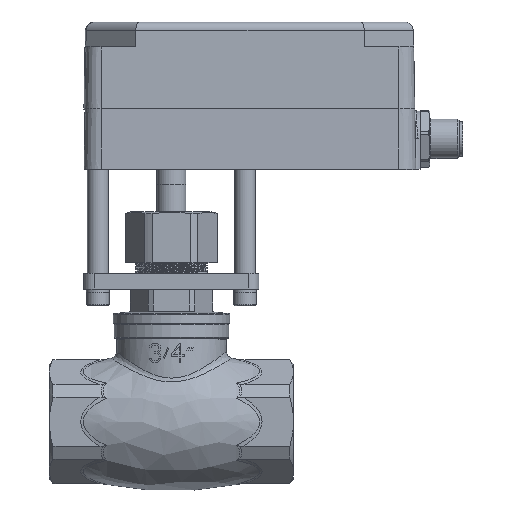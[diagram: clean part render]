
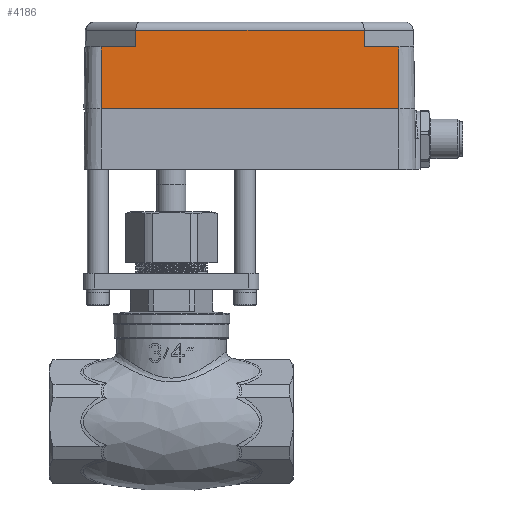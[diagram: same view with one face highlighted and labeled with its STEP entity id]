
A CAD part, top view. The second image highlights one B-rep face of the part: STEP entity #4186.
In plain terms, the highlighted planar face has unit normal (0.005, 0.018, 1) as drawn and (0, 0.017, 1) by its records, which use the part's own axes.
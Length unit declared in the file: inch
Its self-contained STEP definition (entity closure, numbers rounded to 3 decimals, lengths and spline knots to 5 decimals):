
#2121 = CARTESIAN_POINT ( 'NONE',  ( -1.78626, 0., 1.39199 ) ) ;
#2723 = CARTESIAN_POINT ( 'NONE',  ( -1.78626, 0.94175, 1.37555 ) ) ;
#3959 = CARTESIAN_POINT ( 'NONE',  ( 1.78626, 0.74, 1.37907 ) ) ;
#4186 = ADVANCED_FACE ( 'NONE', ( #35026 ), #34861, .T. ) ;
#5116 = ORIENTED_EDGE ( 'NONE', *, *, #5994, .T. ) ;
#5235 = VECTOR ( 'NONE', #9606, 39.37008 ) ;
#5676 = VERTEX_POINT ( 'NONE', #3959 ) ;
#5994 = EDGE_CURVE ( 'NONE', #12981, #29043, #30147, .T. ) ;
#7210 = ORIENTED_EDGE ( 'NONE', *, *, #33599, .F. ) ;
#7552 = VECTOR ( 'NONE', #29981, 39.37008 ) ;
#8459 = VERTEX_POINT ( 'NONE', #26009 ) ;
#8506 = LINE ( 'NONE', #19367, #24276 ) ;
#9035 = LINE ( 'NONE', #19886, #23031 ) ;
#9213 = VECTOR ( 'NONE', #32315, 39.37008 ) ;
#9606 = DIRECTION ( 'NONE',  ( -1., 0., 0. ) ) ;
#10748 = LINE ( 'NONE', #21543, #9213 ) ;
#10757 = VERTEX_POINT ( 'NONE', #2121 ) ;
#12425 = CARTESIAN_POINT ( 'NONE',  ( -1.78626, 0., 1.39199 ) ) ;
#12981 = VERTEX_POINT ( 'NONE', #33308 ) ;
#13736 = VERTEX_POINT ( 'NONE', #27048 ) ;
#13797 = DIRECTION ( 'NONE',  ( -1., 0., 0. ) ) ;
#15023 = LINE ( 'NONE', #23125, #34733 ) ;
#17002 = VERTEX_POINT ( 'NONE', #34607 ) ;
#17352 = ORIENTED_EDGE ( 'NONE', *, *, #28218, .T. ) ;
#18468 = EDGE_CURVE ( 'NONE', #13736, #25526, #10748, .T. ) ;
#19038 = EDGE_CURVE ( 'NONE', #29043, #13736, #27240, .T. ) ;
#19367 = CARTESIAN_POINT ( 'NONE',  ( 1.78626, 1.04, 1.37383 ) ) ;
#19598 = EDGE_CURVE ( 'NONE', #25526, #17002, #23095, .T. ) ;
#19886 = CARTESIAN_POINT ( 'NONE',  ( -1.78626, 0.74, 1.37907 ) ) ;
#20032 = EDGE_CURVE ( 'NONE', #10757, #8459, #28538, .T. ) ;
#20767 = CARTESIAN_POINT ( 'NONE',  ( 1.37104, 0.94175, 1.37555 ) ) ;
#20810 = ORIENTED_EDGE ( 'NONE', *, *, #19038, .T. ) ;
#20902 = CARTESIAN_POINT ( 'NONE',  ( -1.3725, 0.74, 1.37907 ) ) ;
#21543 = CARTESIAN_POINT ( 'NONE',  ( -1.37036, 1.03699, 1.37389 ) ) ;
#22408 = AXIS2_PLACEMENT_3D ( 'NONE', #34819, #34732, #34724 ) ;
#23031 = VECTOR ( 'NONE', #30674, 39.37008 ) ;
#23095 = LINE ( 'NONE', #33821, #5235 ) ;
#23119 = ORIENTED_EDGE ( 'NONE', *, *, #20032, .T. ) ;
#23125 = CARTESIAN_POINT ( 'NONE',  ( -1.78626, 0., 1.39199 ) ) ;
#23225 = DIRECTION ( 'NONE',  ( 1., 0., 0. ) ) ;
#23631 = ORIENTED_EDGE ( 'NONE', *, *, #18468, .T. ) ;
#24276 = VECTOR ( 'NONE', #30145, 39.37008 ) ;
#25526 = VERTEX_POINT ( 'NONE', #20902 ) ;
#26009 = CARTESIAN_POINT ( 'NONE',  ( 1.78626, 0., 1.39199 ) ) ;
#26662 = EDGE_LOOP ( 'NONE', ( #5116, #20810, #23631, #28953, #27993, #23119, #7210, #17352 ) ) ;
#27048 = CARTESIAN_POINT ( 'NONE',  ( -1.37104, 0.94175, 1.37555 ) ) ;
#27240 = LINE ( 'NONE', #2723, #32961 ) ;
#27993 = ORIENTED_EDGE ( 'NONE', *, *, #29658, .F. ) ;
#28218 = EDGE_CURVE ( 'NONE', #5676, #12981, #9035, .T. ) ;
#28538 = LINE ( 'NONE', #12425, #29139 ) ;
#28953 = ORIENTED_EDGE ( 'NONE', *, *, #19598, .T. ) ;
#29043 = VERTEX_POINT ( 'NONE', #20767 ) ;
#29139 = VECTOR ( 'NONE', #23225, 39.37008 ) ;
#29658 = EDGE_CURVE ( 'NONE', #10757, #17002, #15023, .T. ) ;
#29981 = DIRECTION ( 'NONE',  ( -0.007, 1., -0.017 ) ) ;
#30028 = CARTESIAN_POINT ( 'NONE',  ( 1.37017, 1.06281, 1.37344 ) ) ;
#30145 = DIRECTION ( 'NONE',  ( 0., -1., 0.017 ) ) ;
#30147 = LINE ( 'NONE', #30028, #7552 ) ;
#30674 = DIRECTION ( 'NONE',  ( -1., 0., 0. ) ) ;
#32315 = DIRECTION ( 'NONE',  ( -0.007, -1., 0.017 ) ) ;
#32961 = VECTOR ( 'NONE', #13797, 39.37008 ) ;
#33308 = CARTESIAN_POINT ( 'NONE',  ( 1.3725, 0.74, 1.37907 ) ) ;
#33599 = EDGE_CURVE ( 'NONE', #5676, #8459, #8506, .T. ) ;
#33821 = CARTESIAN_POINT ( 'NONE',  ( -1.78626, 0.74, 1.37907 ) ) ;
#33851 = DIRECTION ( 'NONE',  ( 0., 1., -0.017 ) ) ;
#34607 = CARTESIAN_POINT ( 'NONE',  ( -1.78626, 0.74, 1.37907 ) ) ;
#34724 = DIRECTION ( 'NONE',  ( 0., -1., 0.017 ) ) ;
#34732 = DIRECTION ( 'NONE',  ( 0., 0.017, 1. ) ) ;
#34733 = VECTOR ( 'NONE', #33851, 39.37008 ) ;
#34819 = CARTESIAN_POINT ( 'NONE',  ( -1.78626, 1.04, 1.37383 ) ) ;
#34861 = PLANE ( 'NONE',  #22408 ) ;
#35026 = FACE_OUTER_BOUND ( 'NONE', #26662, .T. ) ;
